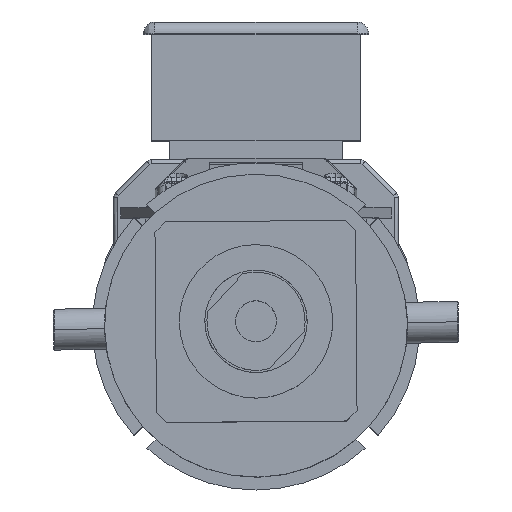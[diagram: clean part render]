
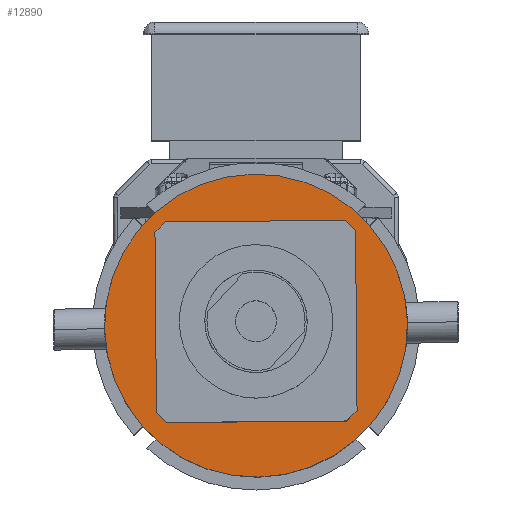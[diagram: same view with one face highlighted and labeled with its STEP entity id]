
A CAD part, top view. The second image highlights one B-rep face of the part: STEP entity #12890.
In plain terms, the highlighted planar face has unit normal (0, 0, 1) as drawn and (0, 0, -1) by its records, which use the part's own axes.
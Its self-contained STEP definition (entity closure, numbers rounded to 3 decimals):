
#1168 = CARTESIAN_POINT ( 'NONE',  ( -40., 0., 0. ) ) ;
#3300 = CIRCLE ( 'NONE', #59490, 74. ) ;
#4370 = ORIENTED_EDGE ( 'NONE', *, *, #21000, .F. ) ;
#4898 = AXIS2_PLACEMENT_3D ( 'NONE', #55552, #16780, #62030 ) ;
#6590 = AXIS2_PLACEMENT_3D ( 'NONE', #26266, #71629, #32789 ) ;
#7076 = AXIS2_PLACEMENT_3D ( 'NONE', #65209, #26425, #71804 ) ;
#9490 = EDGE_CURVE ( 'NONE', #73093, #31974, #81529, .T. ) ;
#9617 = ORIENTED_EDGE ( 'NONE', *, *, #27922, .F. ) ;
#9817 = ORIENTED_EDGE ( 'NONE', *, *, #9490, .F. ) ;
#12890 = ADVANCED_FACE ( 'NONE', ( #25664, #75384 ), #23006, .F. ) ;
#16780 = DIRECTION ( 'NONE',  ( 0., 0., 1. ) ) ;
#18320 = VERTEX_POINT ( 'NONE', #1168 ) ;
#21000 = EDGE_CURVE ( 'NONE', #77224, #18320, #33372, .T. ) ;
#23006 = PLANE ( 'NONE',  #4898 ) ;
#23240 = CARTESIAN_POINT ( 'NONE',  ( 0., 0., 0. ) ) ;
#25145 = CARTESIAN_POINT ( 'NONE',  ( 0., 0., 0. ) ) ;
#25664 = FACE_OUTER_BOUND ( 'NONE', #76518, .T. ) ;
#26266 = CARTESIAN_POINT ( 'NONE',  ( 0., 0., 0. ) ) ;
#26425 = DIRECTION ( 'NONE',  ( 0., 0., 1. ) ) ;
#27922 = EDGE_CURVE ( 'NONE', #31974, #73093, #3300, .T. ) ;
#29767 = DIRECTION ( 'NONE',  ( 1., 0., 0. ) ) ;
#31667 = DIRECTION ( 'NONE',  ( 1., 0., 0. ) ) ;
#31974 = VERTEX_POINT ( 'NONE', #62751 ) ;
#32789 = DIRECTION ( 'NONE',  ( 1., 0., 0. ) ) ;
#33372 = CIRCLE ( 'NONE', #6590, 40. ) ;
#41497 = ORIENTED_EDGE ( 'NONE', *, *, #68512, .F. ) ;
#43720 = AXIS2_PLACEMENT_3D ( 'NONE', #25145, #70500, #31667 ) ;
#44808 = CARTESIAN_POINT ( 'NONE',  ( -74., 0., 0. ) ) ;
#47391 = CIRCLE ( 'NONE', #43720, 40. ) ;
#50811 = EDGE_LOOP ( 'NONE', ( #4370, #41497 ) ) ;
#55552 = CARTESIAN_POINT ( 'NONE',  ( 0., 0., 0. ) ) ;
#59490 = AXIS2_PLACEMENT_3D ( 'NONE', #23240, #68546, #29767 ) ;
#62030 = DIRECTION ( 'NONE',  ( 1., 0., 0. ) ) ;
#62751 = CARTESIAN_POINT ( 'NONE',  ( 74., 0., 0. ) ) ;
#65209 = CARTESIAN_POINT ( 'NONE',  ( 0., 0., 0. ) ) ;
#68512 = EDGE_CURVE ( 'NONE', #18320, #77224, #47391, .T. ) ;
#68546 = DIRECTION ( 'NONE',  ( 0., 0., 1. ) ) ;
#70500 = DIRECTION ( 'NONE',  ( 0., 0., -1. ) ) ;
#71629 = DIRECTION ( 'NONE',  ( 0., 0., -1. ) ) ;
#71804 = DIRECTION ( 'NONE',  ( 1., 0., 0. ) ) ;
#73093 = VERTEX_POINT ( 'NONE', #44808 ) ;
#75384 = FACE_BOUND ( 'NONE', #50811, .T. ) ;
#76518 = EDGE_LOOP ( 'NONE', ( #9817, #9617 ) ) ;
#76728 = CARTESIAN_POINT ( 'NONE',  ( 40., 0., 0. ) ) ;
#77224 = VERTEX_POINT ( 'NONE', #76728 ) ;
#81529 = CIRCLE ( 'NONE', #7076, 74. ) ;
